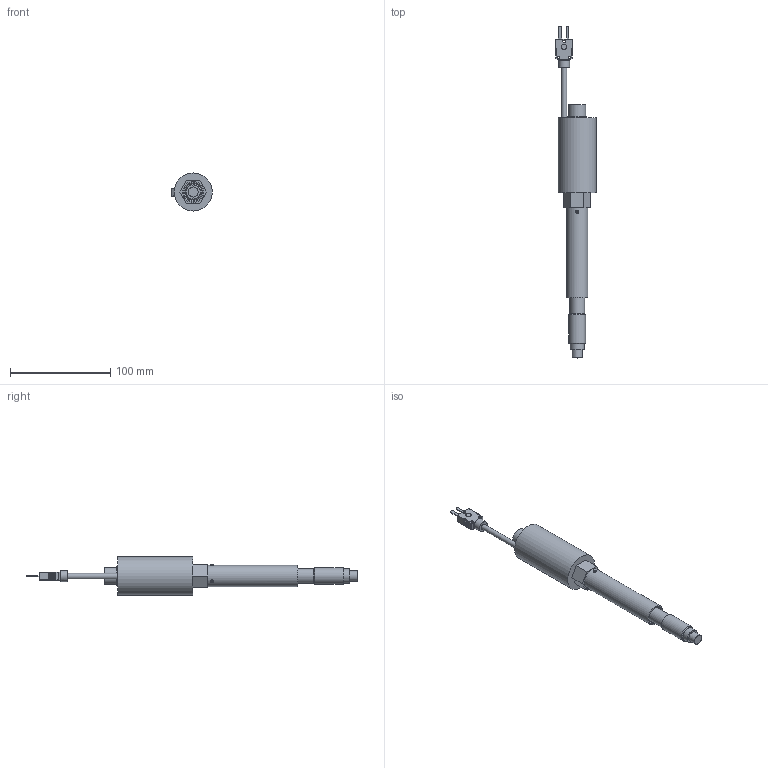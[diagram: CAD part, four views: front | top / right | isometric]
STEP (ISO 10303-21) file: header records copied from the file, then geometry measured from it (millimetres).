
FILE_DESCRIPTION (( 'STEP AP203' ), '1' );
FILE_NAME ('YICZ200PHB-1(0).STEP', '2023-06-29T03:55:58', ( '' ), ( '' ), 'SwSTEP 2.0', 'SolidWorks 2021', '' );
FILE_SCHEMA (( 'CONFIG_CONTROL_DESIGN' ));
Length unit declared in the file: millimetre
Products named in the file (1): YICZ200PHB-1(0)
Bounding box: 40.45 x 331.5 x 38 mm (x, y, z)
Volume: 136141.3 mm3; surface area: 34246.4 mm2
Topology: 3 solids, 4 shells, 178 faces, 399 edges, 245 vertices
Faces by surface type: plane 82, cylinder 72, cone 12, sphere 12
Full cylindrical faces by diameter (mm): 2.6 x3, 3 x6, 4 x1, 5.4 x1, 5.5 x1, 10 x1, 11 x1, 14 x1, 14.6 x3, 16.662 x1, 16.9 x2, 17 x2, 19 x1, 21 x1, 38 x1
Entity records: 5065 total; most frequent: CARTESIAN_POINT 1223, DIRECTION 788, ORIENTED_EDGE 694, EDGE_CURVE 347, AXIS2_PLACEMENT_3D 300, EDGE_LOOP 248, VERTEX_POINT 239, FACE_OUTER_BOUND 204
